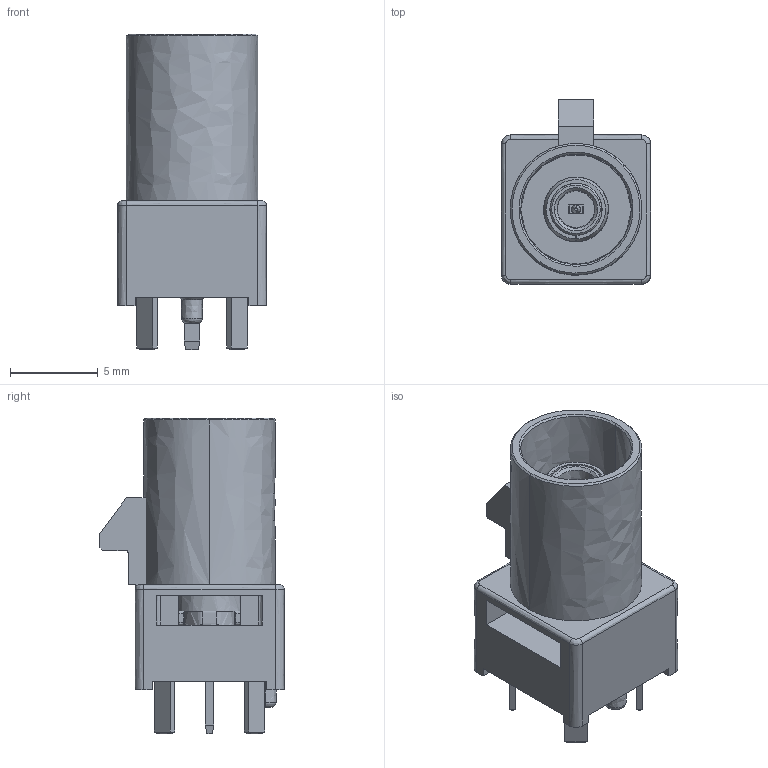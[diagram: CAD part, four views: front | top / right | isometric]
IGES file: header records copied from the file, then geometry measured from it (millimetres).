
Start section:  PTC IGES file: crc5001-6401f.igs
Global section: file name: crc5001-6401f.igs; native system: Creo Parametric by PTC Inc.; preprocessor: 2020454; author: smknikai; organization: Unknown; date: 20220312.234030; units: millimetre
Bounding box: 8.5 x 10.5 x 18 mm (x, y, z)
Volume: 570.2 mm3; surface area: 1397.1 mm2
Topology: 1 solids, 1 shells, 541 faces, 1510 edges, 946 vertices
Faces by surface type: bspline 541
